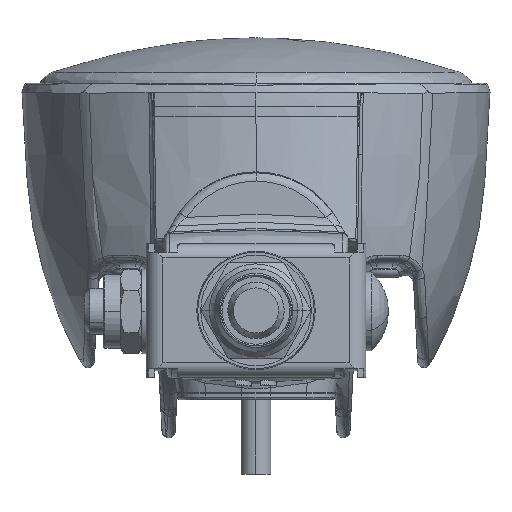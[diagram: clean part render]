
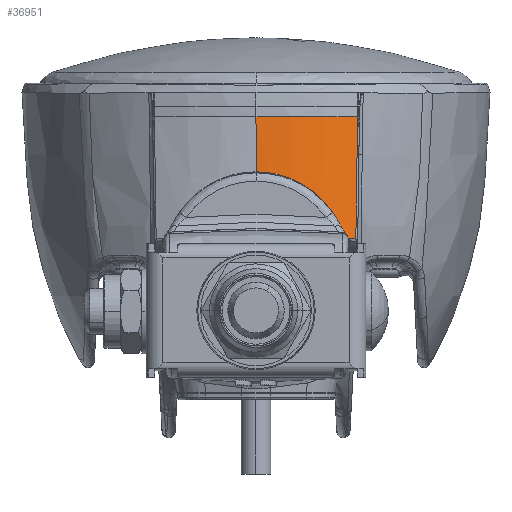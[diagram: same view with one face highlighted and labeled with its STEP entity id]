
A CAD part, front view. The second image highlights one B-rep face of the part: STEP entity #36951.
In plain terms, the highlighted free-form (B-spline) face has degree [5, 2] with [9, 3] control points.
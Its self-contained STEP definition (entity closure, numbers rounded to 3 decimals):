
#35611=CARTESIAN_POINT('Vertex',(16.155,-41.58,0.181)) ;
#35620=CARTESIAN_POINT('Vertex',(16.677,-41.385,0.344)) ;
#35624=CARTESIAN_POINT('Control Point',(16.155,-41.58,0.181)) ;
#35625=CARTESIAN_POINT('Control Point',(16.168,-41.575,0.193)) ;
#35626=CARTESIAN_POINT('Control Point',(16.18,-41.569,0.205)) ;
#35627=CARTESIAN_POINT('Control Point',(16.194,-41.563,0.216)) ;
#35628=CARTESIAN_POINT('Control Point',(16.234,-41.547,0.248)) ;
#35629=CARTESIAN_POINT('Control Point',(16.276,-41.529,0.275)) ;
#35630=CARTESIAN_POINT('Control Point',(16.306,-41.518,0.29)) ;
#35631=CARTESIAN_POINT('Control Point',(16.365,-41.495,0.317)) ;
#35632=CARTESIAN_POINT('Control Point',(16.427,-41.472,0.334)) ;
#35633=CARTESIAN_POINT('Control Point',(16.458,-41.46,0.341)) ;
#35634=CARTESIAN_POINT('Control Point',(16.52,-41.438,0.351)) ;
#35635=CARTESIAN_POINT('Control Point',(16.583,-41.416,0.353)) ;
#35636=CARTESIAN_POINT('Control Point',(16.615,-41.405,0.351)) ;
#35637=CARTESIAN_POINT('Control Point',(16.646,-41.395,0.349)) ;
#35638=CARTESIAN_POINT('Control Point',(16.677,-41.385,0.344)) ;
#35896=CARTESIAN_POINT('Control Point',(15.98,-41.617,0.374)) ;
#35897=CARTESIAN_POINT('Control Point',(16.019,-41.608,0.339)) ;
#35898=CARTESIAN_POINT('Control Point',(16.055,-41.6,0.301)) ;
#35899=CARTESIAN_POINT('Control Point',(16.091,-41.593,0.263)) ;
#35900=CARTESIAN_POINT('Control Point',(16.124,-41.586,0.222)) ;
#35901=CARTESIAN_POINT('Control Point',(16.155,-41.58,0.181)) ;
#35902=CARTESIAN_POINT('Vertex',(15.98,-41.617,0.374)) ;
#36750=CARTESIAN_POINT('Vertex',(17.707,-41.035,0.18)) ;
#36754=CARTESIAN_POINT('Control Point',(16.677,-41.385,0.344)) ;
#36755=CARTESIAN_POINT('Control Point',(16.884,-41.317,0.313)) ;
#36756=CARTESIAN_POINT('Control Point',(17.091,-41.248,0.281)) ;
#36757=CARTESIAN_POINT('Control Point',(17.297,-41.177,0.248)) ;
#36758=CARTESIAN_POINT('Control Point',(17.502,-41.107,0.214)) ;
#36759=CARTESIAN_POINT('Control Point',(17.707,-41.035,0.18)) ;
#36864=CARTESIAN_POINT('Control Point',(0.,-41.94,21.909)) ;
#36865=CARTESIAN_POINT('Control Point',(0.,-43.082,11.044)) ;
#36866=CARTESIAN_POINT('Control Point',(0.,-44.224,0.18)) ;
#36867=CARTESIAN_POINT('Control Point',(2.307,-41.935,21.909)) ;
#36868=CARTESIAN_POINT('Control Point',(2.366,-43.077,11.044)) ;
#36869=CARTESIAN_POINT('Control Point',(2.425,-44.219,0.18)) ;
#36870=CARTESIAN_POINT('Control Point',(4.611,-41.794,21.909)) ;
#36871=CARTESIAN_POINT('Control Point',(4.721,-42.932,11.044)) ;
#36872=CARTESIAN_POINT('Control Point',(4.832,-44.071,0.18)) ;
#36873=CARTESIAN_POINT('Control Point',(6.904,-41.518,21.909)) ;
#36874=CARTESIAN_POINT('Control Point',(7.067,-42.65,11.044)) ;
#36875=CARTESIAN_POINT('Control Point',(7.231,-43.783,0.18)) ;
#36876=CARTESIAN_POINT('Control Point',(10.546,-40.861,21.909)) ;
#36877=CARTESIAN_POINT('Control Point',(10.794,-41.978,11.044)) ;
#36878=CARTESIAN_POINT('Control Point',(11.042,-43.095,0.18)) ;
#36879=CARTESIAN_POINT('Control Point',(14.106,-39.866,21.909)) ;
#36880=CARTESIAN_POINT('Control Point',(14.437,-40.96,11.044)) ;
#36881=CARTESIAN_POINT('Control Point',(14.767,-42.054,0.18)) ;
#36882=CARTESIAN_POINT('Control Point',(15.428,-39.446,21.909)) ;
#36883=CARTESIAN_POINT('Control Point',(15.789,-40.53,11.044)) ;
#36884=CARTESIAN_POINT('Control Point',(16.151,-41.614,0.18)) ;
#36885=CARTESIAN_POINT('Control Point',(16.734,-38.98,21.909)) ;
#36886=CARTESIAN_POINT('Control Point',(17.126,-40.053,11.044)) ;
#36887=CARTESIAN_POINT('Control Point',(17.518,-41.126,0.18)) ;
#36888=CARTESIAN_POINT('Control Point',(18.022,-38.468,21.909)) ;
#36889=CARTESIAN_POINT('Control Point',(18.444,-39.529,11.044)) ;
#36890=CARTESIAN_POINT('Control Point',(18.865,-40.59,0.18)) ;
#36892=CARTESIAN_POINT('Control Point',(6.587,-42.664,10.759)) ;
#36893=CARTESIAN_POINT('Control Point',(5.04,-42.8,11.44)) ;
#36894=CARTESIAN_POINT('Control Point',(3.391,-42.909,11.894)) ;
#36895=CARTESIAN_POINT('Control Point',(1.697,-42.966,12.117)) ;
#36896=CARTESIAN_POINT('Control Point',(0.,-42.97,12.117)) ;
#36897=CARTESIAN_POINT('Vertex',(6.587,-42.664,10.759)) ;
#36899=CARTESIAN_POINT('Vertex',(0.,-42.97,12.117)) ;
#36903=CARTESIAN_POINT('Control Point',(15.711,-41.66,0.783)) ;
#36904=CARTESIAN_POINT('Control Point',(14.804,-41.663,3.409)) ;
#36905=CARTESIAN_POINT('Control Point',(13.371,-41.839,5.852)) ;
#36906=CARTESIAN_POINT('Control Point',(11.451,-42.14,7.974)) ;
#36907=CARTESIAN_POINT('Control Point',(9.139,-42.439,9.636)) ;
#36908=CARTESIAN_POINT('Control Point',(6.587,-42.664,10.759)) ;
#36909=CARTESIAN_POINT('Vertex',(15.711,-41.66,0.783)) ;
#36913=CARTESIAN_POINT('Control Point',(15.711,-41.66,0.783)) ;
#36914=CARTESIAN_POINT('Control Point',(15.764,-41.66,0.627)) ;
#36915=CARTESIAN_POINT('Control Point',(15.859,-41.645,0.485)) ;
#36916=CARTESIAN_POINT('Control Point',(15.98,-41.617,0.374)) ;
#36919=CARTESIAN_POINT('Control Point',(17.707,-41.035,0.18)) ;
#36920=CARTESIAN_POINT('Control Point',(17.812,-40.184,7.424)) ;
#36921=CARTESIAN_POINT('Control Point',(17.917,-39.329,14.667)) ;
#36922=CARTESIAN_POINT('Control Point',(18.022,-38.468,21.909)) ;
#36923=CARTESIAN_POINT('Vertex',(18.022,-38.468,21.909)) ;
#36927=CARTESIAN_POINT('Control Point',(18.022,-38.468,21.909)) ;
#36928=CARTESIAN_POINT('Control Point',(13.731,-40.174,21.909)) ;
#36929=CARTESIAN_POINT('Control Point',(9.22,-41.34,21.909)) ;
#36930=CARTESIAN_POINT('Control Point',(4.615,-41.931,21.909)) ;
#36931=CARTESIAN_POINT('Control Point',(0.,-41.94,21.909)) ;
#36932=CARTESIAN_POINT('Vertex',(0.,-41.94,21.909)) ;
#36936=CARTESIAN_POINT('Control Point',(0.,-41.94,21.909)) ;
#36937=CARTESIAN_POINT('Control Point',(0.,-42.455,17.013)) ;
#36938=CARTESIAN_POINT('Control Point',(0.,-42.97,12.117)) ;
#36941=ORIENTED_EDGE('',*,*,#36901,.F.) ;
#36942=ORIENTED_EDGE('',*,*,#36911,.F.) ;
#36943=ORIENTED_EDGE('',*,*,#36917,.F.) ;
#36944=ORIENTED_EDGE('',*,*,#35904,.F.) ;
#36945=ORIENTED_EDGE('',*,*,#35639,.F.) ;
#36946=ORIENTED_EDGE('',*,*,#36760,.F.) ;
#36947=ORIENTED_EDGE('',*,*,#36925,.F.) ;
#36948=ORIENTED_EDGE('',*,*,#36934,.T.) ;
#36949=ORIENTED_EDGE('',*,*,#36939,.T.) ;
#36951=ADVANCED_FACE('Housing_Gr',(#36950),#36863,.F.) ;
#35623=B_SPLINE_CURVE_WITH_KNOTS('',5,(#35624,#35625,#35626,#35627,#35628,#35629,#35630,#35631,#35632,#35633,#35634,#35635,#35636,#35637,#35638),.UNSPECIFIED.,.F.,.U.,(6,3,3,3,6),(0.802,0.893,1.068,1.237,1.414),.UNSPECIFIED.) ;
#35895=B_SPLINE_CURVE_WITH_KNOTS('',5,(#35896,#35897,#35898,#35899,#35900,#35901),.UNSPECIFIED.,.F.,.U.,(6,6),(0.,0.366),.UNSPECIFIED.) ;
#36753=B_SPLINE_CURVE_WITH_KNOTS('',5,(#36754,#36755,#36756,#36757,#36758,#36759),.UNSPECIFIED.,.F.,.U.,(6,6),(28.951,30.469),.UNSPECIFIED.) ;
#36891=B_SPLINE_CURVE_WITH_KNOTS('',4,(#36892,#36893,#36894,#36895,#36896),.UNSPECIFIED.,.F.,.U.,(5,5),(0.,9.429),.UNSPECIFIED.) ;
#36902=B_SPLINE_CURVE_WITH_KNOTS('',5,(#36903,#36904,#36905,#36906,#36907,#36908),.UNSPECIFIED.,.F.,.U.,(6,6),(31.775,116.176),.UNSPECIFIED.) ;
#36912=B_SPLINE_CURVE_WITH_KNOTS('',3,(#36913,#36914,#36915,#36916),.UNSPECIFIED.,.F.,.U.,(4,4),(26.98,27.765),.UNSPECIFIED.) ;
#36918=B_SPLINE_CURVE_WITH_KNOTS('',3,(#36919,#36920,#36921,#36922),.UNSPECIFIED.,.F.,.U.,(4,4),(11.537,42.483),.UNSPECIFIED.) ;
#36926=B_SPLINE_CURVE_WITH_KNOTS('',4,(#36927,#36928,#36929,#36930,#36931),.UNSPECIFIED.,.F.,.U.,(5,5),(3.838,30.12),.UNSPECIFIED.) ;
#36935=B_SPLINE_CURVE_WITH_KNOTS('',2,(#36936,#36937,#36938),.UNSPECIFIED.,.F.,.U.,(3,3),(-13.755,-3.909),.UNSPECIFIED.) ;
#36863=B_SPLINE_SURFACE_WITH_KNOTS('',5,2,((#36864,#36865,#36866),(#36867,#36868,#36869),(#36870,#36871,#36872),(#36873,#36874,#36875),(#36876,#36877,#36878),(#36879,#36880,#36881),(#36882,#36883,#36884),(#36885,#36886,#36887),(#36888,#36889,#36890)),.UNSPECIFIED.,.F.,.F.,.U.,(6,3,6),(3,3),(0.,11.612,18.584),(-13.755,8.094),.UNSPECIFIED.) ;
#35639=EDGE_CURVE('',#35621,#35612,#35623,.F.) ;
#35904=EDGE_CURVE('',#35612,#35903,#35895,.F.) ;
#36760=EDGE_CURVE('',#36751,#35621,#36753,.F.) ;
#36901=EDGE_CURVE('',#36898,#36900,#36891,.T.) ;
#36911=EDGE_CURVE('',#36910,#36898,#36902,.T.) ;
#36917=EDGE_CURVE('',#35903,#36910,#36912,.F.) ;
#36925=EDGE_CURVE('',#36924,#36751,#36918,.F.) ;
#36934=EDGE_CURVE('',#36924,#36933,#36926,.T.) ;
#36939=EDGE_CURVE('',#36933,#36900,#36935,.T.) ;
#36940=EDGE_LOOP('',(#36941,#36942,#36943,#36944,#36945,#36946,#36947,#36948,#36949)) ;
#36950=FACE_OUTER_BOUND('',#36940,.T.) ;
#35612=VERTEX_POINT('',#35611) ;
#35621=VERTEX_POINT('',#35620) ;
#35903=VERTEX_POINT('',#35902) ;
#36751=VERTEX_POINT('',#36750) ;
#36898=VERTEX_POINT('',#36897) ;
#36900=VERTEX_POINT('',#36899) ;
#36910=VERTEX_POINT('',#36909) ;
#36924=VERTEX_POINT('',#36923) ;
#36933=VERTEX_POINT('',#36932) ;
